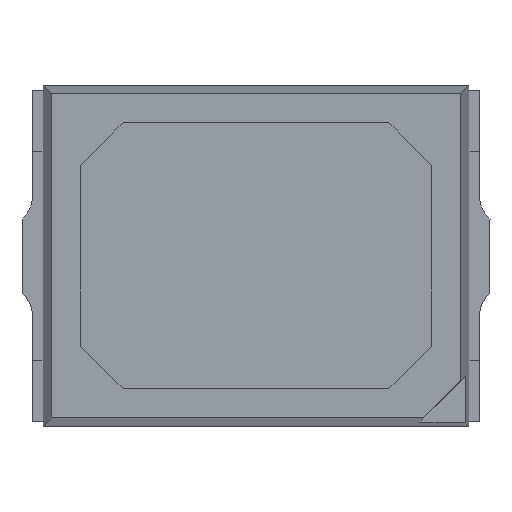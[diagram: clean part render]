
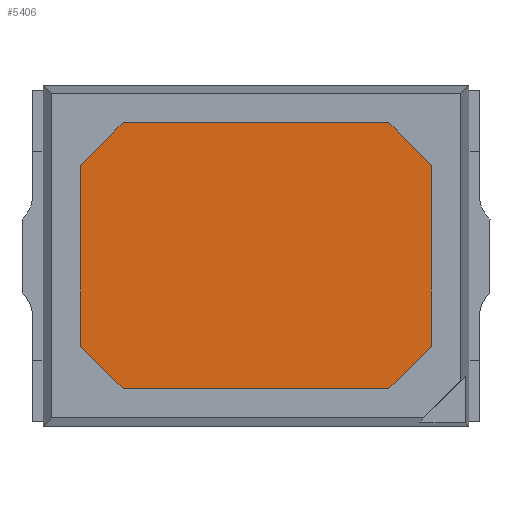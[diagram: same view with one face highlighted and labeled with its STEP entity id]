
A CAD part, top view. The second image highlights one B-rep face of the part: STEP entity #5406.
In plain terms, the highlighted planar face has unit normal (0, 0, -1).
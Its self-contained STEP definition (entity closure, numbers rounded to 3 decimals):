
#46 = VERTEX_POINT ( 'NONE', #2367 ) ;
#49 = CARTESIAN_POINT ( 'NONE',  ( 0.625, 0.625, 0.553 ) ) ;
#103 = CARTESIAN_POINT ( 'NONE',  ( 0.825, 0.425, 0.553 ) ) ;
#132 = DIRECTION ( 'NONE',  ( 0., -1., 0. ) ) ;
#175 = DIRECTION ( 'NONE',  ( -1., 0., 0. ) ) ;
#291 = EDGE_CURVE ( 'NONE', #504, #5196, #4680, .T. ) ;
#311 = CARTESIAN_POINT ( 'NONE',  ( 0.825, -0.425, 0.553 ) ) ;
#374 = EDGE_CURVE ( 'NONE', #5196, #46, #4855, .T. ) ;
#453 = EDGE_LOOP ( 'NONE', ( #1515, #3016, #2528, #1582, #1678, #514, #4071, #778 ) ) ;
#504 = VERTEX_POINT ( 'NONE', #6225 ) ;
#514 = ORIENTED_EDGE ( 'NONE', *, *, #291, .F. ) ;
#676 = VECTOR ( 'NONE', #1560, 1000. ) ;
#776 = VECTOR ( 'NONE', #1194, 1000. ) ;
#778 = ORIENTED_EDGE ( 'NONE', *, *, #2552, .F. ) ;
#947 = VECTOR ( 'NONE', #2238, 1000. ) ;
#1088 = DIRECTION ( 'NONE',  ( -0.707, 0.707, 0. ) ) ;
#1147 = CARTESIAN_POINT ( 'NONE',  ( -0.825, 0.425, 0.553 ) ) ;
#1194 = DIRECTION ( 'NONE',  ( 0., 1., 0. ) ) ;
#1515 = ORIENTED_EDGE ( 'NONE', *, *, #1966, .F. ) ;
#1560 = DIRECTION ( 'NONE',  ( -1., 0., 0. ) ) ;
#1567 = VECTOR ( 'NONE', #2762, 1000. ) ;
#1582 = ORIENTED_EDGE ( 'NONE', *, *, #1903, .F. ) ;
#1678 = ORIENTED_EDGE ( 'NONE', *, *, #374, .F. ) ;
#1723 = CARTESIAN_POINT ( 'NONE',  ( 0.825, -0.425, 0.553 ) ) ;
#1903 = EDGE_CURVE ( 'NONE', #46, #4462, #5299, .T. ) ;
#1966 = EDGE_CURVE ( 'NONE', #2868, #5836, #3614, .T. ) ;
#2077 = AXIS2_PLACEMENT_3D ( 'NONE', #6140, #4723, #175 ) ;
#2101 = LINE ( 'NONE', #3650, #4122 ) ;
#2238 = DIRECTION ( 'NONE',  ( 0.707, -0.707, 0. ) ) ;
#2367 = CARTESIAN_POINT ( 'NONE',  ( -0.625, -0.625, 0.553 ) ) ;
#2528 = ORIENTED_EDGE ( 'NONE', *, *, #4992, .F. ) ;
#2552 = EDGE_CURVE ( 'NONE', #5836, #2798, #2671, .T. ) ;
#2632 = CARTESIAN_POINT ( 'NONE',  ( 0.625, -0.625, 0.553 ) ) ;
#2671 = LINE ( 'NONE', #49, #676 ) ;
#2679 = EDGE_CURVE ( 'NONE', #4990, #2868, #5750, .T. ) ;
#2762 = DIRECTION ( 'NONE',  ( 0.707, 0.707, 0. ) ) ;
#2798 = VERTEX_POINT ( 'NONE', #3118 ) ;
#2857 = CARTESIAN_POINT ( 'NONE',  ( 0.625, -0.625, 0.553 ) ) ;
#2868 = VERTEX_POINT ( 'NONE', #103 ) ;
#3016 = ORIENTED_EDGE ( 'NONE', *, *, #2679, .F. ) ;
#3118 = CARTESIAN_POINT ( 'NONE',  ( -0.625, 0.625, 0.553 ) ) ;
#3439 = VECTOR ( 'NONE', #5052, 1000. ) ;
#3555 = CARTESIAN_POINT ( 'NONE',  ( -0.625, -0.625, 0.553 ) ) ;
#3614 = LINE ( 'NONE', #5669, #5865 ) ;
#3650 = CARTESIAN_POINT ( 'NONE',  ( -0.625, 0.625, 0.553 ) ) ;
#3900 = LINE ( 'NONE', #2857, #1567 ) ;
#4071 = ORIENTED_EDGE ( 'NONE', *, *, #6044, .F. ) ;
#4122 = VECTOR ( 'NONE', #6276, 1000. ) ;
#4462 = VERTEX_POINT ( 'NONE', #2632 ) ;
#4680 = LINE ( 'NONE', #1147, #5604 ) ;
#4723 = DIRECTION ( 'NONE',  ( 0., 0., -1. ) ) ;
#4784 = CARTESIAN_POINT ( 'NONE',  ( -0.825, -0.425, 0.553 ) ) ;
#4855 = LINE ( 'NONE', #4784, #947 ) ;
#4990 = VERTEX_POINT ( 'NONE', #311 ) ;
#4992 = EDGE_CURVE ( 'NONE', #4462, #4990, #3900, .T. ) ;
#5052 = DIRECTION ( 'NONE',  ( 1., 0., 0. ) ) ;
#5170 = PLANE ( 'NONE',  #2077 ) ;
#5196 = VERTEX_POINT ( 'NONE', #6267 ) ;
#5299 = LINE ( 'NONE', #3555, #3439 ) ;
#5406 = ADVANCED_FACE ( 'NONE', ( #5654 ), #5170, .T. ) ;
#5604 = VECTOR ( 'NONE', #132, 1000. ) ;
#5654 = FACE_OUTER_BOUND ( 'NONE', #453, .T. ) ;
#5669 = CARTESIAN_POINT ( 'NONE',  ( 0.825, 0.425, 0.553 ) ) ;
#5750 = LINE ( 'NONE', #1723, #776 ) ;
#5836 = VERTEX_POINT ( 'NONE', #6358 ) ;
#5865 = VECTOR ( 'NONE', #1088, 1000. ) ;
#6044 = EDGE_CURVE ( 'NONE', #2798, #504, #2101, .T. ) ;
#6140 = CARTESIAN_POINT ( 'NONE',  ( 0., 0., 0.553 ) ) ;
#6225 = CARTESIAN_POINT ( 'NONE',  ( -0.825, 0.425, 0.553 ) ) ;
#6267 = CARTESIAN_POINT ( 'NONE',  ( -0.825, -0.425, 0.553 ) ) ;
#6276 = DIRECTION ( 'NONE',  ( -0.707, -0.707, 0. ) ) ;
#6358 = CARTESIAN_POINT ( 'NONE',  ( 0.625, 0.625, 0.553 ) ) ;
